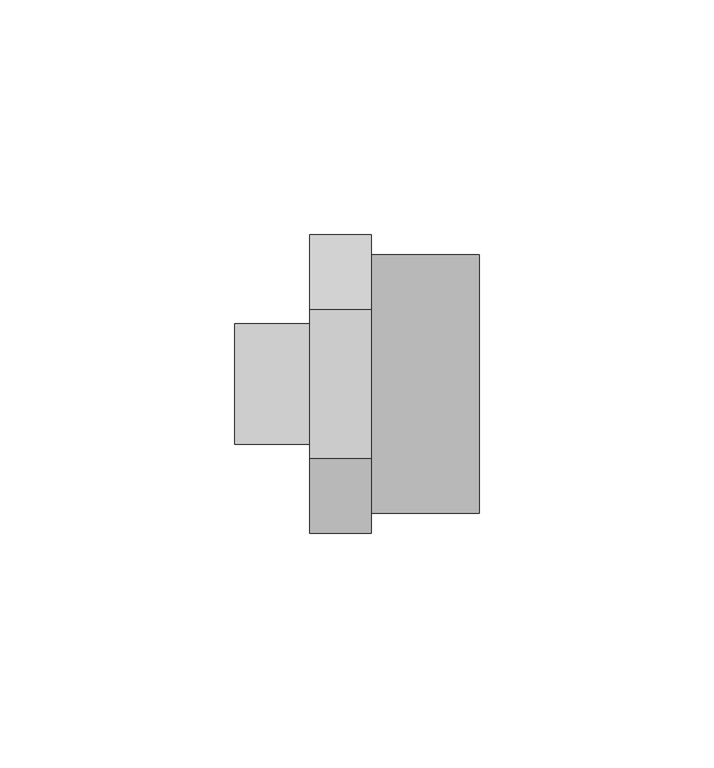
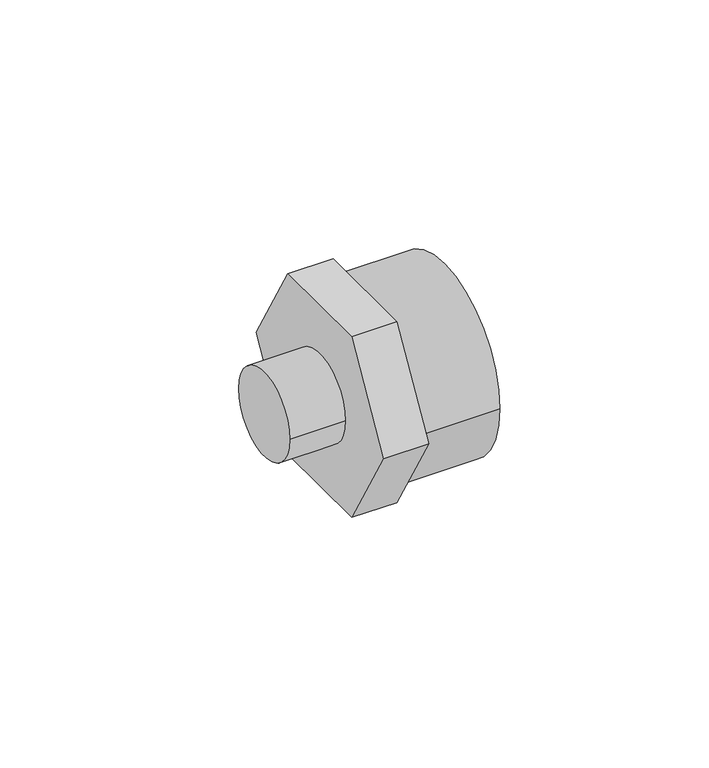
"""IFC4 building model written with IfcOpenShell, lengths in millimetres: pipe fitting geometry, 01011006 : Uniões de redução M/F."""

from ifc_helpers import new_model, si_unit, point, frame, origin, origin_2d, place, context, project, spatial, polyline, circle_curve, trimmed, segment, composite_curve, outline, extrude, source, transform, mapped, element, save


def pipe_fitting_7f953d18(model_context):
    return source(origin(), model_context, "Body", "SweptSolid", [
        extrude(outline(composite_curve([segment(trimmed(circle_curve(origin_2d(), 12.8), [point((12.8, 0.0))], [point((-12.8, 0.0))], False, "CARTESIAN"), True, "CONTINUOUS"), segment(trimmed(circle_curve(origin_2d(), 12.8), [point((-12.8, 0.0))], [point((12.8, 0.0))], False, "CARTESIAN"), True, "CONTINUOUS")], self_intersect=False)), frame((0.0, 0.0, 0.0), z_axis=(1.0, 0.0, 0.0), x_axis=(0.0, 1.0, 0.0)), (0.0, 0.0, 1.0), 16.0),
        extrude(outline(polyline([(-15.8771324, 27.5), (15.8771324, 27.5), (31.7542648, 0.0), (15.8771324, -27.5), (-15.8771324, -27.5), (-31.7542648, 0.0), (-15.8771324, 27.5)])), frame((16.0, 0.0, 0.0), z_axis=(1.0, 0.0, 0.0), x_axis=(0.0, 1.0, 0.0)), (0.0, 0.0, 1.0), 13.0),
        extrude(outline(composite_curve([segment(trimmed(circle_curve(origin_2d(), 27.5), [point((-27.5, 0.0))], [point((27.5, 0.0))], False, "CARTESIAN"), True, "CONTINUOUS"), segment(trimmed(circle_curve(origin_2d(), 27.5), [point((27.5, 0.0))], [point((-27.5, 0.0))], False, "CARTESIAN"), True, "CONTINUOUS")], self_intersect=False)), frame((29.0, 0.0, 0.0), z_axis=(1.0, 0.0, 0.0), x_axis=(0.0, 1.0, 0.0)), (0.0, 0.0, 1.0), 23.0),
    ])


if __name__ == "__main__":
    model = new_model("IFC4")
    model_context = context("Model", 3, world=origin())
    ifc_project = project(units=[si_unit("LENGTHUNIT", "METRE", prefix="MILLI")], contexts=[model_context])
    site = spatial("IfcSite", under=ifc_project)
    building = spatial("IfcBuilding", under=site)
    placement = place(None, origin())
    pipe_fitting_shape = pipe_fitting_7f953d18(model_context)
    element("IfcPipeFitting", 1, ObjectType="01011006 : Uniões de redução M/F", at=placement, inside=building, context=model_context, shape_type="MappedRepresentation", body=[
        mapped(pipe_fitting_shape, transform((0.0, 0.0, 0.0), x_axis=(1.0, 0.0, 0.0), y_axis=(0.0, 1.0, 0.0), z_axis=(0.0, 0.0, 1.0))),
    ])
    save(model, "model.ifc")
